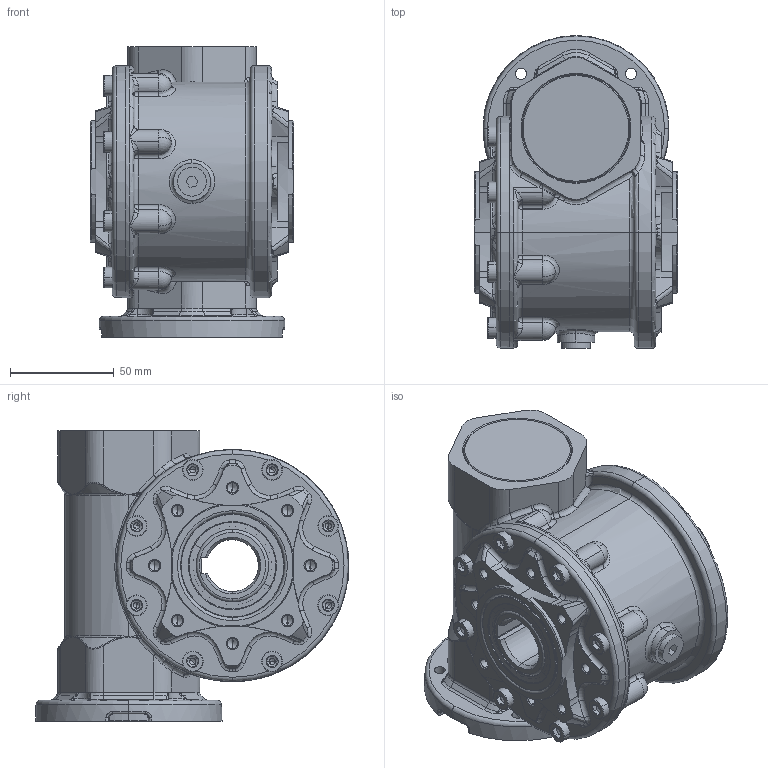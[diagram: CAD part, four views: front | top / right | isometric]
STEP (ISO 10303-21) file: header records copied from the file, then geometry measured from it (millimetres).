
FILE_DESCRIPTION (( 'STEP AP203' ), '1' );
FILE_NAME ('Sestava MRT50A-FT.STEP', '2005-08-15T05:14:23', ( '' ), ( '' ), 'SwSTEP 2.0', 'SolidWorks 2004146', '' );
FILE_SCHEMA (( 'CONFIG_CONTROL_DESIGN' ));
Products named in the file (1): Sestava MRT50A-FT
Bounding box: 98 x 151 x 140 mm (x, y, z)
Volume: 697632.2 mm3; surface area: 270109.8 mm2
Topology: 30 solids, 32 shells, 2903 faces, 7219 edges, 4085 vertices
Faces by surface type: cylinder 676, torus 672, bspline 478, cone 469, plane 462, sphere 146
Entity records: 289650 total; most frequent: CARTESIAN_POINT 225620, ORIENTED_EDGE 13518, DIRECTION 13511, EDGE_CURVE 6759, AXIS2_PLACEMENT_3D 6021, VERTEX_POINT 3941, CIRCLE 3595, EDGE_LOOP 3076
